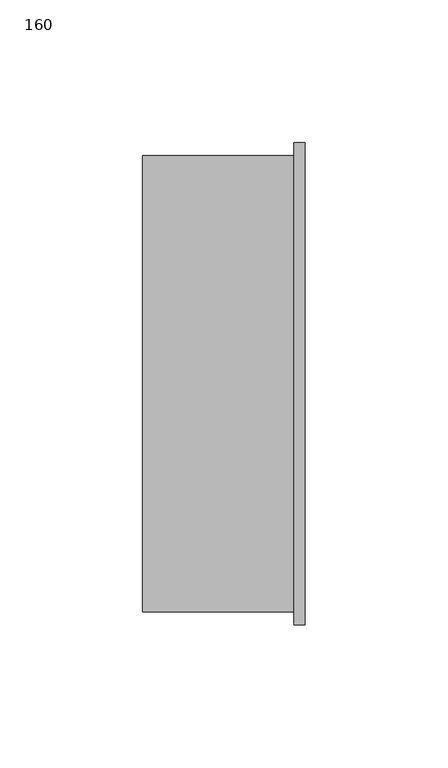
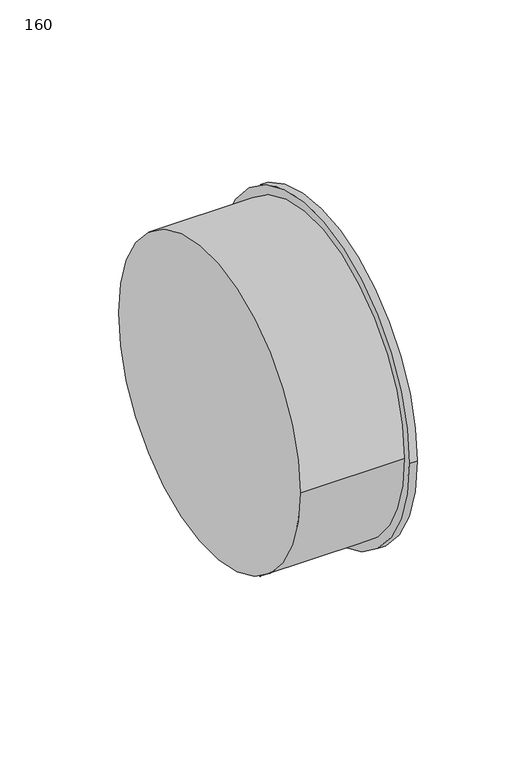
"""IFC4 building model written with IfcOpenShell, lengths in millimetres: pipe fitting geometry, Pipelife - PVC-U - Korek kanalizacyjny długi_studnia : 160."""

from ifc_helpers import new_model, si_unit, point, frame, origin, origin_2d, place, context, project, spatial, circle_curve, trimmed, segment, composite_curve, outline, extrude, source, transform, mapped, element, save


def pipe_fitting_160_e1f47460(model_context):
    return source(origin(), model_context, "Body", "SweptSolid", [
        extrude(outline(composite_curve([segment(trimmed(circle_curve(origin_2d(), 80.0), [point((-80.0, 0.0))], [point((80.0, 0.0))], False, "CARTESIAN"), True, "CONTINUOUS"), segment(trimmed(circle_curve(origin_2d(), 80.0), [point((80.0, 0.0))], [point((-80.0, 0.0))], False, "CARTESIAN"), True, "CONTINUOUS")], self_intersect=False)), frame((-53.0, 0.0, 0.0), z_axis=(1.0, 0.0, 0.0), x_axis=(0.0, 1.0, 0.0)), (0.0, 0.0, 1.0), 53.0),
        extrude(outline(composite_curve([segment(trimmed(circle_curve(origin_2d(), 84.5), [point((-84.5, 0.0))], [point((84.5, 0.0))], False, "CARTESIAN"), True, "CONTINUOUS"), segment(trimmed(circle_curve(origin_2d(), 84.5), [point((84.5, 0.0))], [point((-84.5, 0.0))], False, "CARTESIAN"), True, "CONTINUOUS")], self_intersect=False)), frame((0.0, 0.0, 0.0), z_axis=(1.0, 0.0, 0.0), x_axis=(0.0, 1.0, 0.0)), (0.0, 0.0, 1.0), 4.0),
    ])


if __name__ == "__main__":
    model = new_model("IFC4")
    model_context = context("Model", 3, world=origin())
    ifc_project = project(units=[si_unit("LENGTHUNIT", "METRE", prefix="MILLI")], contexts=[model_context])
    site = spatial("IfcSite", under=ifc_project)
    building = spatial("IfcBuilding", under=site)
    placement = place(None, origin())
    pipe_fitting_160_shape = pipe_fitting_160_e1f47460(model_context)
    element("IfcPipeFitting", 1, ObjectType="Pipelife - PVC-U - Korek kanalizacyjny długi_studnia : 160", at=placement, inside=building, context=model_context, shape_type="MappedRepresentation", body=[
        mapped(pipe_fitting_160_shape, transform((0.0, 0.0, 0.0), x_axis=(1.0, 0.0, 0.0), y_axis=(0.0, 1.0, 0.0), z_axis=(0.0, 0.0, 1.0))),
    ])
    save(model, "model.ifc")
